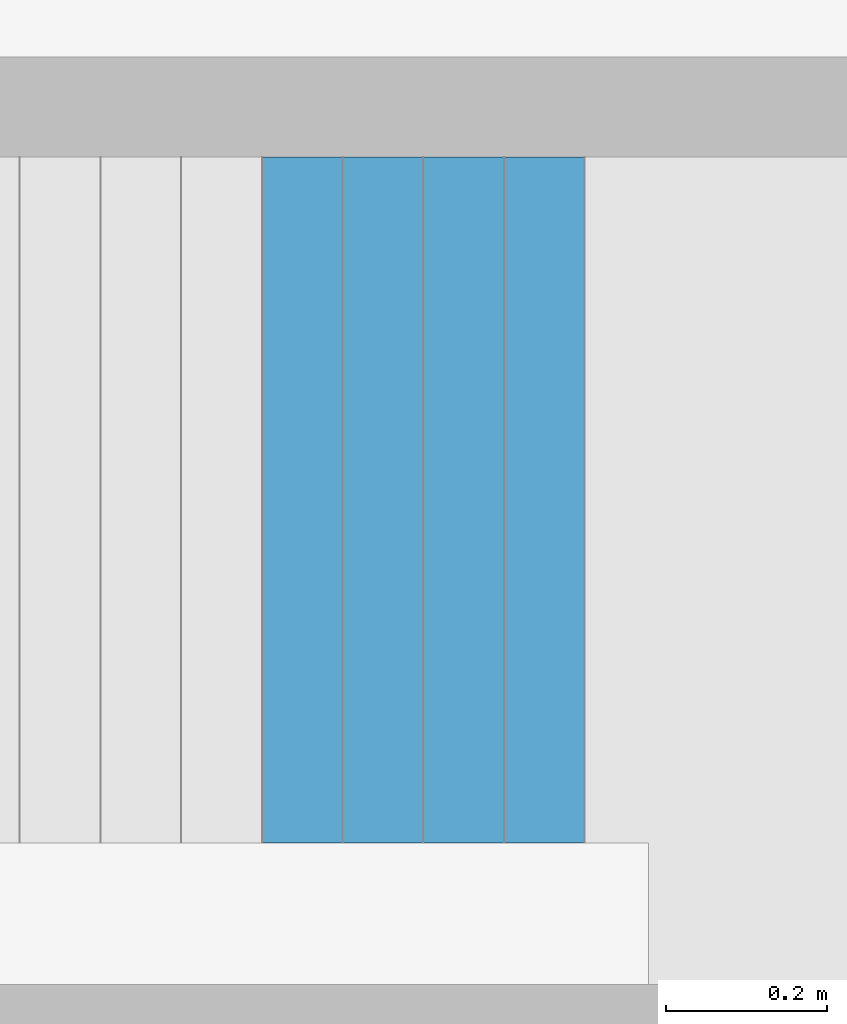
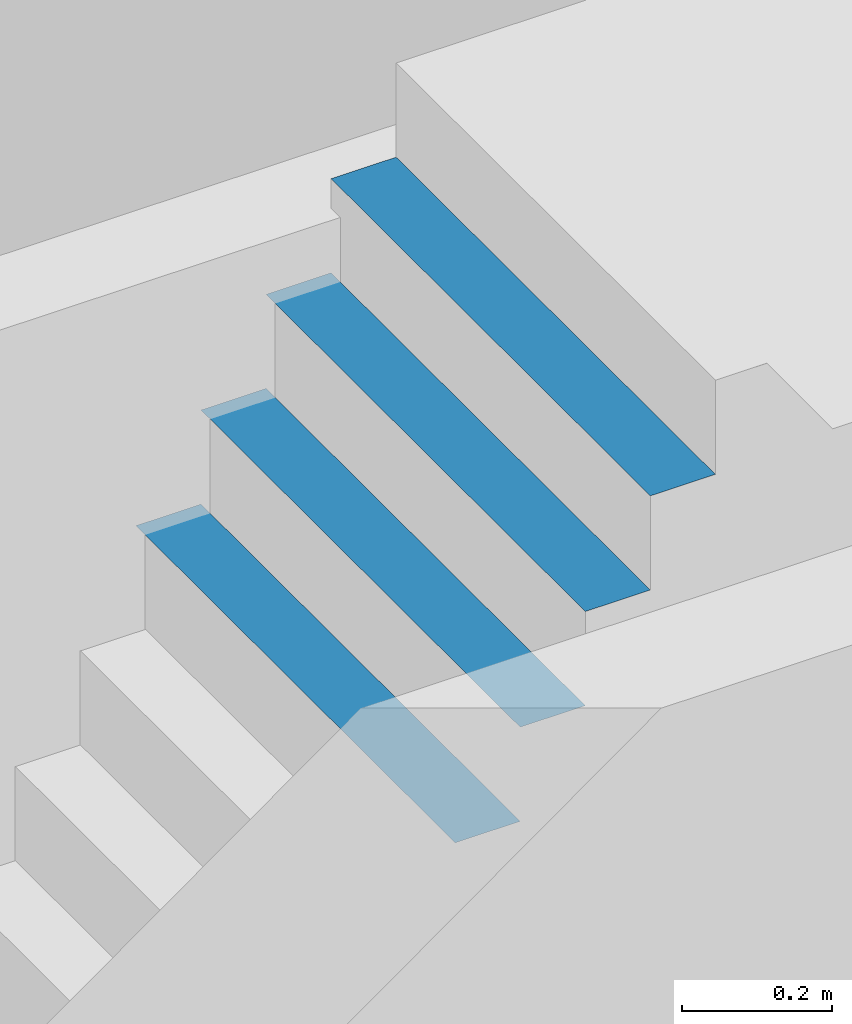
# One storey, part 35 of 48: 4 building element parts, 1 element without a shape of its own.
"""IFC2X3 building model written with IfcOpenShell, lengths in millimetres."""

from ifc_helpers import new_model, entity, si_unit, converted_unit, derived_unit, money_unit, direction, frame, origin_with_axes, place, context, subcontext, project, spatial, open_shell, surface_model, element, aggregate, save


model = new_model("IFC2X3")

# Units and contexts
model_context = context("Model", 3, precision=0.01, world=origin_with_axes(), true_north=direction((0.0, 1.0)))
body_context = subcontext(model_context, "Body", "Model", "MODEL_VIEW")
ifc_project = project(units=[si_unit("LENGTHUNIT", "METRE", prefix="MILLI"), si_unit("AREAUNIT", "SQUARE_METRE"), si_unit("VOLUMEUNIT", "CUBIC_METRE"), converted_unit("PLANEANGLEUNIT", "DEGREE", entity("IfcPlaneAngleMeasure", 0.0174532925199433), si_unit("PLANEANGLEUNIT", "RADIAN"), dimensions=[0, 0, 0, 0, 0, 0, 0]), money_unit("USD"), converted_unit("TIMEUNIT", "Year", entity("IfcTimeMeasure", 31557600.0), si_unit("TIMEUNIT", "SECOND"), dimensions=[0, 0, 1, 0, 0, 0, 0]), si_unit("MASSUNIT", "GRAM", prefix="KILO"), si_unit("THERMODYNAMICTEMPERATUREUNIT", "DEGREE_CELSIUS"), si_unit("LUMINOUSINTENSITYUNIT", "LUMEN"), si_unit("ENERGYUNIT", "JOULE", prefix="MEGA"), derived_unit("THERMALCONDUCTANCEUNIT", [(si_unit("POWERUNIT", "WATT"), 1), (si_unit("LENGTHUNIT", "METRE"), -1), (si_unit("THERMODYNAMICTEMPERATUREUNIT", "KELVIN"), -1)]), derived_unit("SPECIFICHEATCAPACITYUNIT", [(si_unit("ENERGYUNIT", "JOULE"), 1), (si_unit("MASSUNIT", "GRAM", prefix="KILO"), -1), (si_unit("THERMODYNAMICTEMPERATUREUNIT", "KELVIN"), -1)]), derived_unit("MASSDENSITYUNIT", [(si_unit("MASSUNIT", "GRAM", prefix="KILO"), 1), (si_unit("VOLUMEUNIT", "CUBIC_METRE"), -1)])], contexts=[model_context])

# Site, building, storey
site_placement = place(None, origin_with_axes())
site = spatial("IfcSite", under=ifc_project, at=site_placement, Name="Site", CompositionType="ELEMENT")
building_placement = place(site_placement, origin_with_axes())
building = spatial("IfcBuilding", under=site, at=building_placement, Name="Building", CompositionType="ELEMENT")
storey_placement = place(building_placement, frame((0.0, 0.0, 3300.0), z_axis=(0.0, 0.0, 1.0), x_axis=(1.0, 0.0, 0.0)))
storey = spatial("IfcBuildingStorey", under=building, at=storey_placement, Name="1 ETG", CompositionType="ELEMENT", Elevation=3300.0)

# Stair, building element parts
stair_placement = place(storey_placement, frame((19494.96070329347, 14600.0, 0.0), z_axis=(0.0, 0.0, 1.0), x_axis=(1.0, 0.0, 0.0)))
stair = element("IfcStair", 1, at=stair_placement, inside=storey, Name="STAIR - 001", ShapeType="NOTDEFINED")
building_element_part_1_placement = place(stair_placement, origin_with_axes())
building_element_part_1 = element("IfcBuildingElementPart", 2, at=building_element_part_1_placement, context=body_context, shape_type="SurfaceModel", body=[
    surface_model("IfcShellBasedSurfaceModel", [(-378.8909089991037, 1025.673860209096, 2141.176470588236), (-278.8909097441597, 1025.673860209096, 2141.176470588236), (-278.8909097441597, 175.6738602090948, 2141.176470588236), (-378.8909089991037, 175.6738602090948, 2141.176470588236)], [open_shell([[[0, 1, 2, 3]]])]),
])
building_element_part_2_placement = place(stair_placement, origin_with_axes())
building_element_part_2 = element("IfcBuildingElementPart", 3, at=building_element_part_2_placement, context=body_context, shape_type="SurfaceModel", body=[
    surface_model("IfcShellBasedSurfaceModel", [(-478.8909089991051, 1025.673860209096, 1988.235294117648), (-378.890909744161, 1025.673860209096, 1988.235294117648), (-378.890909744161, 175.6738602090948, 1988.235294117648), (-478.8909089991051, 175.6738602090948, 1988.235294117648)], [open_shell([[[0, 1, 2, 3]]])]),
])
building_element_part_3_placement = place(stair_placement, origin_with_axes())
building_element_part_3 = element("IfcBuildingElementPart", 4, at=building_element_part_3_placement, context=body_context, shape_type="SurfaceModel", body=[
    surface_model("IfcShellBasedSurfaceModel", [(-278.8909089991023, 1025.673860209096, 2294.117647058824), (-178.8909097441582, 1025.673860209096, 2294.117647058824), (-178.8909097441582, 175.6738602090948, 2294.117647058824), (-278.8909089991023, 175.6738602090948, 2294.117647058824)], [open_shell([[[0, 1, 2, 3]]])]),
])
building_element_part_4_placement = place(stair_placement, origin_with_axes())
building_element_part_4 = element("IfcBuildingElementPart", 5, at=building_element_part_4_placement, context=body_context, shape_type="SurfaceModel", body=[
    surface_model("IfcShellBasedSurfaceModel", [(-178.8909089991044, 1025.673860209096, 2447.058823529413), (-78.89090974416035, 1025.673860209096, 2447.058823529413), (-78.89090974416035, 175.6738602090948, 2447.058823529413), (-178.8909089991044, 175.6738602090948, 2447.058823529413)], [open_shell([[[0, 1, 2, 3]]])]),
])
aggregate(stair, [building_element_part_1, building_element_part_2, building_element_part_3, building_element_part_4])

save(model, "model.ifc")
